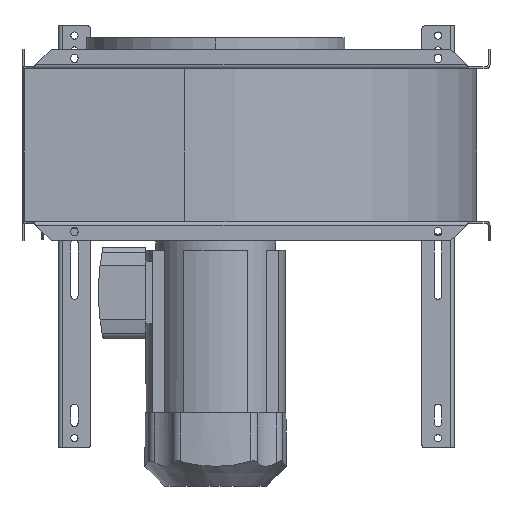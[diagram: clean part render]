
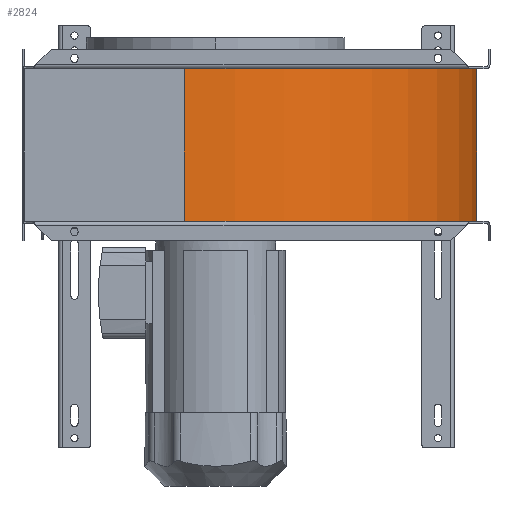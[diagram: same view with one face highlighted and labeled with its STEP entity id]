
A CAD part, front view. The second image highlights one B-rep face of the part: STEP entity #2824.
In plain terms, the highlighted cylindrical face has radius 450.6 mm (diameter 901.2 mm), a partial arc.
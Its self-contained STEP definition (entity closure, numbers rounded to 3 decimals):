
#359=DIRECTION('',(0.,0.,1.));
#360=VECTOR('',#359,235.);
#361=CARTESIAN_POINT('',(-48.6,-488.6,-117.5));
#362=LINE('',#361,#360);
#502=CARTESIAN_POINT('',(-48.6,-38.,117.5));
#503=DIRECTION('',(0.,0.,-1.));
#504=DIRECTION('',(1.,-0.003,0.));
#505=AXIS2_PLACEMENT_3D('',#502,#503,#504);
#532=CARTESIAN_POINT('',(-48.6,-38.,-117.5));
#533=DIRECTION('',(0.,0.,-1.));
#534=DIRECTION('',(1.,-0.003,0.));
#535=AXIS2_PLACEMENT_3D('',#532,#533,#534);
#540=DIRECTION('',(0.,0.,1.));
#541=VECTOR('',#540,235.);
#542=CARTESIAN_POINT('',(401.999,-39.208,-117.5));
#543=LINE('',#542,#541);
#1877=CARTESIAN_POINT('',(-48.6,-488.6,-117.5));
#1878=VERTEX_POINT('',#1877);
#1881=CARTESIAN_POINT('',(-48.6,-488.6,117.5));
#1882=VERTEX_POINT('',#1881);
#1889=CARTESIAN_POINT('',(401.999,-39.208,-117.5));
#1890=VERTEX_POINT('',#1889);
#1891=CARTESIAN_POINT('',(401.999,-39.208,117.5));
#1892=VERTEX_POINT('',#1891);
#2812=CARTESIAN_POINT('',(-48.6,-38.,-117.5));
#2813=DIRECTION('',(0.,0.,1.));
#2814=DIRECTION('',(1.,0.,0.));
#2815=AXIS2_PLACEMENT_3D('',#2812,#2813,#2814);
#2816=CYLINDRICAL_SURFACE('',#2815,450.6);
#2817=ORIENTED_EDGE('',*,*,#2793,.T.);
#2818=ORIENTED_EDGE('',*,*,#2532,.T.);
#2819=ORIENTED_EDGE('',*,*,#2742,.F.);
#2821=ORIENTED_EDGE('',*,*,#2820,.F.);
#2822=EDGE_LOOP('',(#2817,#2818,#2819,#2821));
#2823=FACE_OUTER_BOUND('',#2822,.F.);
#506=CIRCLE('',#505,450.6);
#536=CIRCLE('',#535,450.6);
#2532=EDGE_CURVE('',#1878,#1882,#362,.T.);
#2742=EDGE_CURVE('',#1892,#1882,#506,.T.);
#2793=EDGE_CURVE('',#1890,#1878,#536,.T.);
#2820=EDGE_CURVE('',#1890,#1892,#543,.T.);
#2824=ADVANCED_FACE('',(#2823),#2816,.T.);
